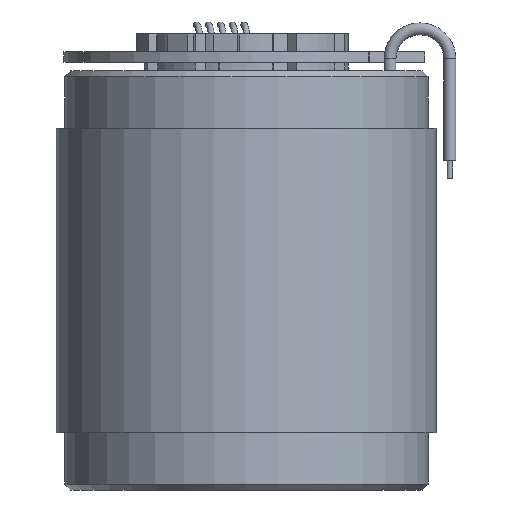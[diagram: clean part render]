
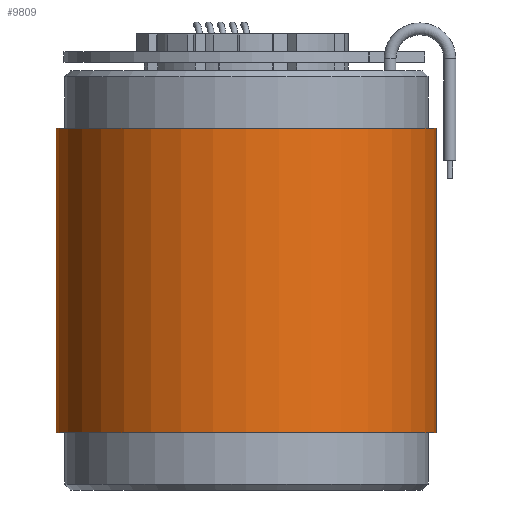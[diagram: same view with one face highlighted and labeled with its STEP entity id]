
A CAD part, left-side view. The second image highlights one B-rep face of the part: STEP entity #9809.
In plain terms, the highlighted cylindrical face has radius 31.75 mm (diameter 63.5 mm), a full revolution.
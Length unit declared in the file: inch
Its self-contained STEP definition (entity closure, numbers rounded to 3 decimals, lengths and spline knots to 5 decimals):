
#9763=CARTESIAN_POINT('',(0.0,1.25,2.0));
#9764=VERTEX_POINT('',#9763);
#9765=CARTESIAN_POINT('',(0.0,0.0,2.0));
#9766=DIRECTION('',(0.0,0.0,-1.0));
#9767=DIRECTION('',(0.0,-1.0,0.0));
#9768=AXIS2_PLACEMENT_3D('',#9765,#9766,#9767);
#9769=CIRCLE('',#9768,1.25);
#9770=EDGE_CURVE('',#9764,#9764,#9769,.T.);
#9783=CARTESIAN_POINT('',(0.0,1.25,0.0));
#9784=VERTEX_POINT('',#9783);
#9785=CARTESIAN_POINT('',(0.0,0.0,0.0));
#9786=DIRECTION('',(0.0,0.0,-1.0));
#9787=DIRECTION('',(0.0,-1.0,0.0));
#9788=AXIS2_PLACEMENT_3D('',#9785,#9786,#9787);
#9789=CIRCLE('',#9788,1.25);
#9790=EDGE_CURVE('',#9784,#9784,#9789,.T.);
#9798=CARTESIAN_POINT('',(0.0,0.0,0.0));
#9799=DIRECTION('',(0.0,0.0,-1.0));
#9800=DIRECTION('',(0.0,-1.0,0.0));
#9801=AXIS2_PLACEMENT_3D('',#9798,#9799,#9800);
#9802=CYLINDRICAL_SURFACE('',#9801,1.25);
#9803=ORIENTED_EDGE('',*,*,#9790,.F.);
#9804=EDGE_LOOP('',(#9803));
#9805=FACE_OUTER_BOUND('',#9804,.T.);
#9806=ORIENTED_EDGE('',*,*,#9770,.T.);
#9807=EDGE_LOOP('',(#9806));
#9808=FACE_BOUND('',#9807,.T.);
#9809=ADVANCED_FACE('',(#9805,#9808),#9802,.T.);
